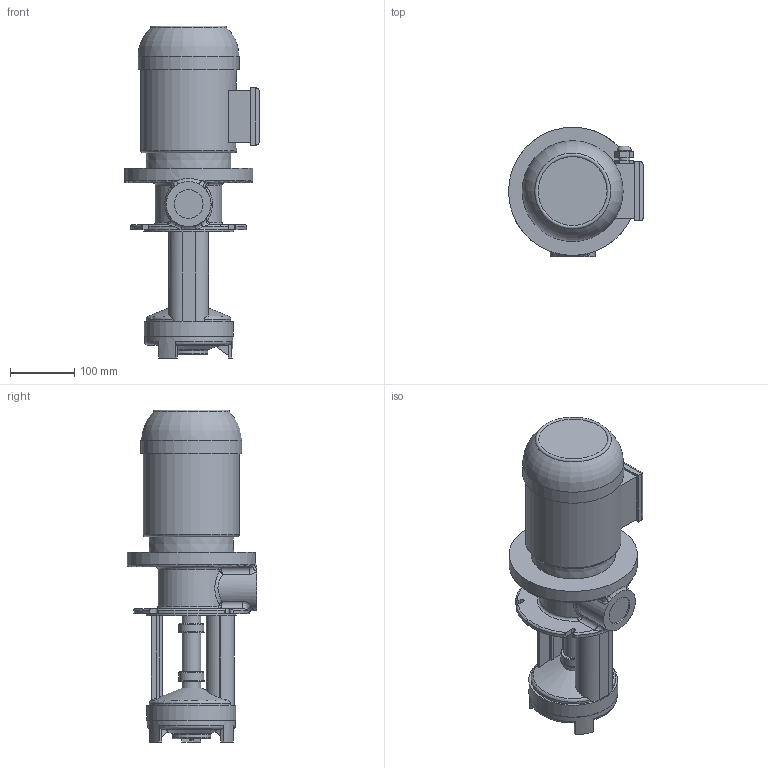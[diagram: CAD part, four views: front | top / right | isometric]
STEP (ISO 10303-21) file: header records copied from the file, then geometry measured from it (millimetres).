
FILE_DESCRIPTION(/* description */ ('Unknown'),/* implementation_level */ '2;1');
FILE_NAME(/* name */ 'gp200',/* time_stamp */ '2025-06-04T09:09:31+03:00',/* author */ ('Unknown'),/* organization */ ('Unknown'),/* preprocessor_version */ 'ST-DEVELOPER v16.7',/* originating_system */ 'DEX',/* authorisation */ $);
FILE_SCHEMA (('AUTOMOTIVE_DESIGN {1 0 10303 214 3 1 1}'));
Length unit declared in the file: millimetre
Products named in the file (1): gp200
Bounding box: 210.5 x 202 x 517.57 mm (x, y, z)
Volume: 7043931.8 mm3; surface area: 370803.4 mm2
Topology: 1 solids, 1 shells, 296 faces, 730 edges, 467 vertices
Faces by surface type: plane 112, bspline 86, cylinder 64, torus 18, cone 16
Full cylindrical faces by diameter (mm): 17 x1, 21.5 x1, 29 x3, 33 x2, 35 x2, 39 x2, 40.5 x2, 45 x1, 47 x1, 60 x1, 137 x1, 139 x1, 140 x1, 149.426 x1, 200 x1
Entity records: 11370 total; most frequent: CARTESIAN_POINT 5073, ORIENTED_EDGE 1360, DIRECTION 1075, EDGE_CURVE 680, VERTEX_POINT 462, AXIS2_PLACEMENT_3D 393, EDGE_LOOP 376, FACE_BOUND 376
